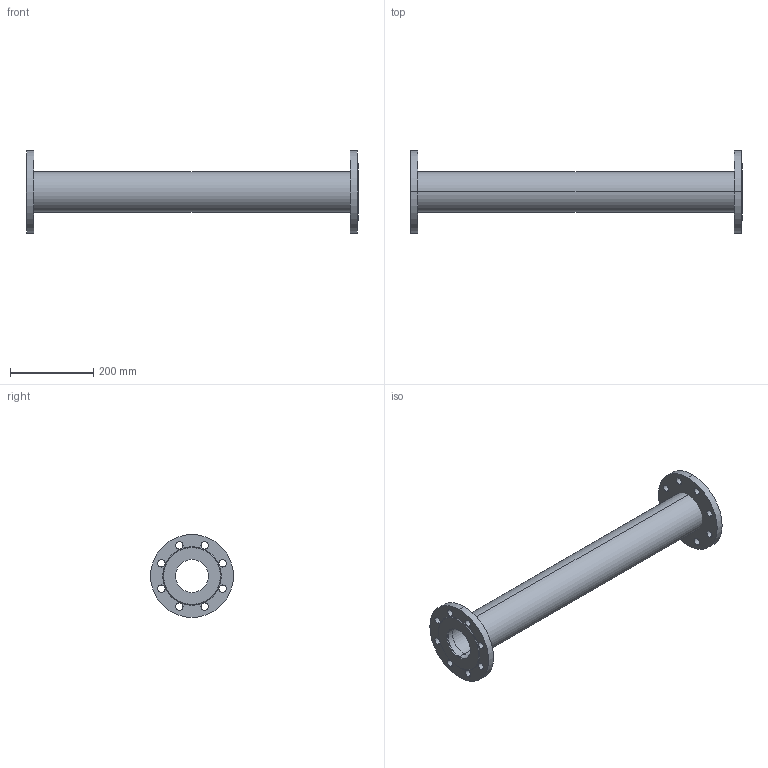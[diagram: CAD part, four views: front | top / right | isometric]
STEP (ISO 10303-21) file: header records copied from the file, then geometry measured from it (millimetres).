
FILE_DESCRIPTION(('STEP AP214'),'1');
FILE_NAME('U:/VDI-Daten/8500/8500_PN16_L800_DN80.STP','2012-06-12T14:43:46',(' '),(' '),'Spatial InterOp 3D',' ',' ');
FILE_SCHEMA(('automotive_design'));
Length unit declared in the file: millimetre
Products named in the file (5): 3D-Objekt
Bounding box: 800 x 200 x 200 mm (x, y, z)
Volume: 2861621.2 mm3; surface area: 634706.3 mm2
Topology: 5 solids, 5 shells, 62 faces, 156 edges, 104 vertices
Faces by surface type: cylinder 48, plane 10, cone 4
Entity records: 2621 total; most frequent: DIRECTION 394, CARTESIAN_POINT 327, ORIENTED_EDGE 312, AXIS2_PLACEMENT_3D 171, EDGE_CURVE 156, EDGE_LOOP 104, VERTEX_POINT 104, CIRCLE 104
